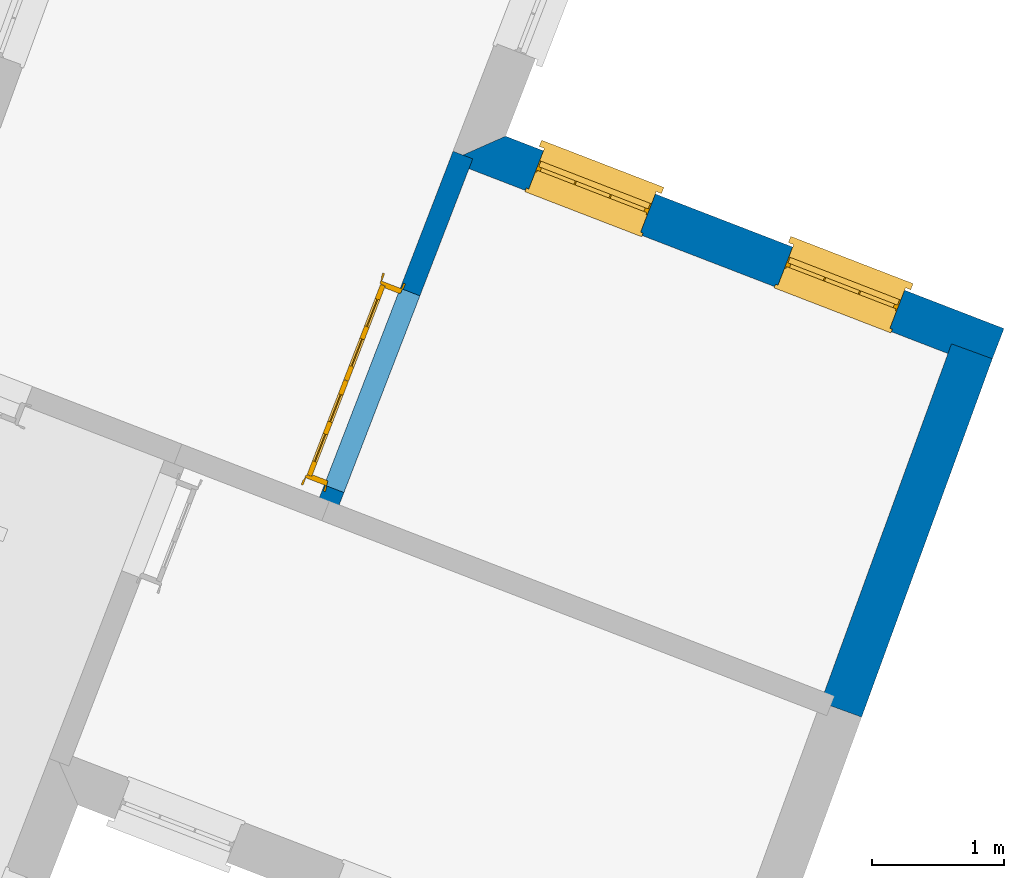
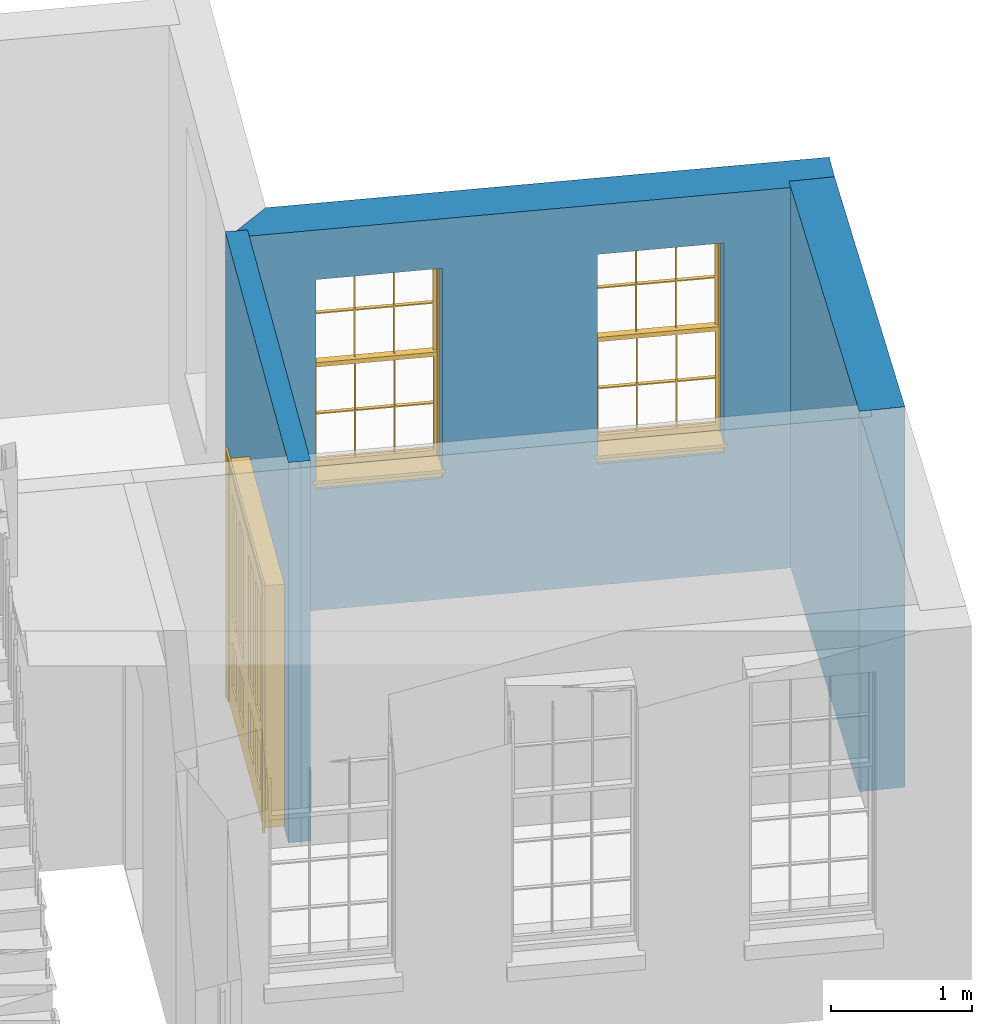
# One storey, part 3 of 4: 3 walls, 2 windows, 1 door, 3 openings.
"""IFC4 building model written with IfcOpenShell, lengths in metres."""

from ifc_helpers import new_model, si_unit, frame, origin, origin_with_axes, place, context, subcontext, project, spatial, polyline, outline, extrude, faceted_brep, source, transform, mapped, material, layer, layer_set, layer_usage, type_object, type_shapes, element, fill, save


model = new_model("IFC4")

# Units and contexts
model_context = context("Model", 3, world=origin_with_axes())
body_context = subcontext(model_context, "Body", "Model", "MODEL_VIEW")
ifc_project = project(units=[si_unit("PLANEANGLEUNIT", "RADIAN"), si_unit("MASSUNIT", "GRAM", prefix="KILO"), si_unit("FORCEUNIT", "NEWTON", prefix="KILO"), si_unit("LENGTHUNIT", "METRE"), si_unit("AREAUNIT", "SQUARE_METRE"), si_unit("VOLUMEUNIT", "CUBIC_METRE")], contexts=[model_context, model_context])

# Sites, building, storey
site_1_placement = place(None, origin_with_axes())
site_1 = spatial("IfcSite", under=ifc_project, at=site_1_placement, Name="Tamar")
site_2_placement = place(site_1_placement, origin_with_axes())
site_2 = spatial("IfcSite", under=site_1, at=site_2_placement, Name="Site plot-11", CompositionType="ELEMENT")
building_placement = place(None, origin_with_axes())
building = spatial("IfcBuilding", under=site_2, at=building_placement, Name="Building plot-11", CompositionType="ELEMENT")
storey_placement = place(None, frame((0.0, 0.0, 30.1), z_axis=(0.0, 0.0, 1.0), x_axis=(1.0, 0.0, 0.0)))
storey = spatial("IfcBuildingStorey", under=building, at=storey_placement, Name="plot-11 1", CompositionType="ELEMENT", Elevation=30.1)

# Wall, openings, windows
ifc_material_1 = material(Name="Masonry")
ifc_layer_1 = layer(ifc_material_1, 0.33, ventilated=False)
ifc_layer_set_1 = layer_set([ifc_layer_1], Name="exterior_0.08_0.25")
ifc_layer_usage_1 = layer_usage(ifc_layer_set_1, "AXIS2", "POSITIVE", -0.25)
wall_type_1 = type_object("IfcWallType", Name="exterior_0.08_0.25", PredefinedType="SOLIDWALL", material=ifc_layer_set_1)
wall_1_placement = place(storey_placement, frame((248.278077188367, 315.049619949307, 0.0), z_axis=(0.0, 0.0, 1.0), x_axis=(-0.932925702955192, 0.360068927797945, 0.0)))
wall_1 = element("IfcWall", 1, at=wall_1_placement, inside=storey, type_object=wall_type_1, material=ifc_layer_usage_1, Name="exterior", context=body_context, shape_type="SweptSolid", body=[
    extrude(outline(polyline([(-0.249999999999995, 0.0799999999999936), (-0.250000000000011, -0.249999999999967), (3.80341760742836, -0.250000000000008), (4.13341760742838, 0.0799999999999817), (-0.249999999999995, 0.0799999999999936)])), origin_with_axes(), (0.0, 0.0, 1.0), 3.3),
])
opening_1_placement = place(wall_1_placement, frame((0.558354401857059, 0.0, 1.05)))
opening_1 = element("IfcOpeningElement", 2, at=opening_1_placement, cuts=wall_1, Name="My Opening", ObjectType="Opening", context=body_context, shape_type="SweptSolid", body=[
    extrude(outline(polyline([(0.0, -0.269999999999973), (0.910000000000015, -0.269999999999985), (0.910000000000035, 1.10000000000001), (1.95399252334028e-14, 1.10000000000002), (0.0, -0.269999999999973)])), origin_with_axes(), (0.0, 0.0, 1.0), 1.82),
])
opening_2_placement = place(wall_1_placement, frame((2.58506320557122, 0.0, 1.05)))
opening_2 = element("IfcOpeningElement", 3, at=opening_2_placement, cuts=wall_1, Name="My Opening", ObjectType="Opening", context=body_context, shape_type="SweptSolid", body=[
    extrude(outline(polyline([(0.0, -0.269999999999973), (0.910000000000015, -0.269999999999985), (0.910000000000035, 1.10000000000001), (1.99840144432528e-14, 1.10000000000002), (0.0, -0.269999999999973)])), origin_with_axes(), (0.0, 0.0, 1.0), 1.82),
])
window_type = type_object("IfcWindowType", Name="sash_big", PartitioningType="DOUBLE_PANEL_HORIZONTAL", PredefinedType="NOTDEFINED")
shared_shape_1 = source(origin(), body_context, "Body", "Brep", [
    faceted_brep([(0.033125, 0.145, 0.975209), (0.01, 0.145, 0.975209), (0.033125, 0.145, 1.376042), (0.876875, 0.145, 0.975209), (0.876875, 0.145, 1.376042), (0.9, 0.145, 0.975209), (0.876875, 0.145, 1.386042), (0.876875, 0.145, 1.786875), (0.9, 0.145, 1.81), (0.033125, 0.145, 1.786875), (0.033125, 0.145, 1.386042), (0.01, 0.145, 1.81), (0.876875, 0.115, 1.376042), (0.876875, 0.115, 0.975209), (0.9, 0.115, 0.937083), (0.033125, 0.115, 1.786875), (0.01, 0.115, 1.81), (0.033125, 0.115, 1.386042), (0.01, 0.115, 0.937083), (0.033125, 0.115, 0.975209), (0.033125, 0.115, 1.376042), (0.876875, 0.115, 1.786875), (0.876875, 0.115, 1.386042), (0.9, 0.115, 1.81), (0.033125, 0.145, 0.937083), (0.01, 0.145, 0.937083), (0.033125, 0.145, 0.53625), (0.876875, 0.145, 0.937083), (0.876875, 0.145, 0.53625), (0.9, 0.145, 0.937083), (0.876875, 0.145, 0.52625), (0.876875, 0.145, 0.125417), (0.9, 0.145, 0.077167), (0.033125, 0.145, 0.125417), (0.033125, 0.145, 0.52625), (0.01, 0.145, 0.077167), (-0.0425, 0.0, 0.01), (-0.0425, -0.05, 0.001667), (0.0, 0.0, 0.01), (0.9525, 0.0, 0.01), (0.91, 0.0, 0.01), (0.9525, -0.05, 0.001667), (-0.02, 0.33, 0.077167), (0.0, 0.33, 0.077167), (-0.02, 0.36, 0.077167), (0.0, 0.19, 0.077167), (0.01, 0.19, 0.077167), (0.91, 0.19, 0.077167), (0.91, 0.33, 0.077167), (0.9, 0.19, 0.077167), (0.93, 0.33, 0.077167), (0.93, 0.36, 0.077167), (0.01, 0.175, 0.975209), (0.9, 0.175, 0.975209), (0.876875, 0.175, 0.125417), (0.876875, 0.175, 0.52625), (0.9, 0.175, 0.077167), (0.876875, 0.175, 0.53625), (0.876875, 0.175, 0.937083), (0.033125, 0.175, 0.125417), (0.01, 0.175, 0.077167), (0.033125, 0.175, 0.52625), (0.033125, 0.175, 0.937083), (0.033125, 0.175, 0.53625), (-0.02, 0.33, 0.052167), (-0.02, 0.36, 0.052167), (0.93, 0.36, 0.052167), (0.93, 0.33, 0.052167), (0.91, 0.33, 0.052167), (0.0, 0.33, 0.052167), (0.91, 0.1, 0.026667), (0.0, 0.1, 0.026667), (-0.0425, -0.05, -0.123333), (0.9525, -0.05, -0.123333), (-0.0425, 0.0, -0.123333), (0.9525, 0.0, -0.123333), (0.01, 0.19, 1.81), (0.9, 0.19, 1.81), (0.0, 0.19, 1.82), (0.91, 0.19, 1.82), (0.01, 0.1, 0.077167), (0.9, 0.1, 0.077167), (0.592292, 0.145, 0.125417), (0.592292, 0.175, 0.125417), (0.317708, 0.175, 0.125417), (0.317708, 0.145, 0.125417), (0.592292, 0.145, 0.53625), (0.317708, 0.145, 0.53625), (0.317708, 0.145, 0.52625), (0.592292, 0.145, 0.52625), (0.592292, 0.175, 0.53625), (0.317708, 0.175, 0.53625), (0.592292, 0.115, 1.386042), (0.592292, 0.145, 1.386042), (0.317708, 0.145, 1.386042), (0.317708, 0.115, 1.386042), (0.317708, 0.115, 1.376042), (0.592292, 0.115, 1.376042), (0.317708, 0.145, 1.376042), (0.592292, 0.145, 1.376042), (0.602292, 0.115, 1.376042), (0.592292, 0.115, 0.975209), (0.602292, 0.115, 0.975209), (0.602292, 0.145, 0.975209), (0.592292, 0.145, 0.975209), (0.602292, 0.145, 1.376042), (0.602292, 0.175, 0.53625), (0.602292, 0.145, 0.53625), (0.317708, 0.175, 0.52625), (0.307708, 0.175, 0.125417), (0.307708, 0.175, 0.52625), (0.602292, 0.175, 0.52625), (0.602292, 0.175, 0.125417), (0.592292, 0.175, 0.52625), (0.307708, 0.175, 0.53625), (0.317708, 0.175, 0.937083), (0.307708, 0.175, 0.937083), (0.602292, 0.175, 0.937083), (0.592292, 0.175, 0.937083), (0.307708, 0.145, 0.52625), (0.307708, 0.145, 0.125417), (0.307708, 0.145, 0.53625), (0.307708, 0.145, 0.937083), (0.592292, 0.145, 0.937083), (0.317708, 0.145, 0.937083), (0.602292, 0.145, 0.937083), (0.602292, 0.145, 0.52625), (0.602292, 0.145, 0.125417), (0.307708, 0.115, 1.386042), (0.307708, 0.115, 1.376042), (0.307708, 0.115, 0.975209), (0.317708, 0.115, 0.975209), (0.317708, 0.115, 1.786875), (0.307708, 0.115, 1.786875), (0.602292, 0.115, 1.786875), (0.592292, 0.115, 1.786875), (0.602292, 0.115, 1.386042), (0.602292, 0.145, 1.386042), (0.307708, 0.145, 1.386042), (0.307708, 0.145, 1.786875), (0.317708, 0.145, 1.786875), (0.592292, 0.145, 1.786875), (0.602292, 0.145, 1.786875), (0.307708, 0.145, 1.376042), (0.317708, 0.145, 0.975209), (0.307708, 0.145, 0.975209), (0.91, 0.1, 1.82), (0.9, 0.1, 1.81), (0.01, 0.1, 1.81), (0.0, 0.1, 1.82), (0.91, 0.0, 0.0), (0.0, 0.0, 0.0), (0.91, 0.33, 0.0), (0.0, 0.33, 0.0)], [[[0, 1, 2]], [[3, 4, 5]], [[6, 7, 8]], [[9, 10, 11]], [[12, 13, 14]], [[15, 16, 17]], [[18, 19, 20]], [[21, 22, 23]], [[24, 25, 26]], [[27, 28, 29]], [[30, 31, 32]], [[33, 34, 35]], [[14, 27, 29]], [[25, 24, 18]], [[36, 37, 38]], [[39, 40, 41]], [[42, 43, 44]], [[45, 46, 43]], [[47, 48, 49]], [[50, 51, 48]], [[1, 0, 52]], [[5, 53, 3]], [[54, 55, 56]], [[57, 58, 53]], [[59, 60, 61]], [[62, 63, 52]], [[48, 43, 46, 49]], [[51, 44, 43, 48]], [[64, 42, 44, 65]], [[65, 44, 51, 66]], [[66, 51, 50, 67]], [[65, 66, 68, 69]], [[60, 56, 49, 46]], [[70, 71, 38, 40]], [[37, 41, 40, 38]], [[37, 72, 73, 41]], [[74, 75, 73, 72]], [[8, 11, 76, 77]], [[76, 78, 79, 77]], [[32, 35, 80, 81]], [[81, 80, 71, 70]], [[82, 83, 84, 85]], [[86, 87, 88, 89]], [[86, 90, 91, 87]], [[92, 93, 94, 95]], [[92, 95, 96, 97]], [[96, 98, 99, 97]], [[100, 97, 101, 102]], [[103, 104, 99, 105]], [[97, 99, 104, 101]], [[102, 103, 105, 100]], [[28, 57, 106, 107]], [[108, 84, 109, 110]], [[111, 112, 83, 113]], [[114, 110, 61, 63]], [[90, 113, 108, 91]], [[115, 91, 114, 116]], [[117, 106, 90, 118]], [[111, 106, 57, 55]], [[119, 110, 109, 120]], [[34, 61, 110, 119]], [[89, 113, 83, 82]], [[88, 108, 113, 89]], [[85, 84, 108, 88]], [[121, 114, 63, 26]], [[122, 116, 114, 121]], [[123, 118, 90, 86]], [[87, 91, 115, 124]], [[107, 106, 117, 125]], [[126, 111, 55, 30]], [[127, 112, 111, 126]], [[126, 30, 28, 107]], [[88, 119, 120, 85]], [[126, 89, 82, 127]], [[125, 123, 86, 107]], [[121, 26, 34, 119]], [[124, 122, 121, 87]], [[128, 17, 20, 129]], [[96, 129, 130, 131]], [[132, 133, 128, 95]], [[134, 135, 92, 136]], [[100, 12, 22, 136]], [[137, 6, 4, 105]], [[94, 138, 139, 140]], [[137, 93, 141, 142]], [[99, 98, 94, 93]], [[143, 2, 10, 138]], [[144, 145, 143, 98]], [[129, 143, 145, 130]], [[20, 2, 143, 129]], [[131, 144, 98, 96]], [[128, 138, 10, 17]], [[133, 139, 138, 128]], [[135, 141, 93, 92]], [[95, 94, 140, 132]], [[22, 6, 137, 136]], [[136, 137, 142, 134]], [[100, 105, 4, 12]], [[107, 86, 89, 126]], [[106, 111, 113, 90]], [[91, 108, 110, 114]], [[87, 121, 119, 88]], [[97, 100, 136, 92]], [[129, 96, 95, 128]], [[98, 143, 138, 94]], [[105, 99, 93, 137]], [[131, 101, 104, 144]], [[124, 115, 118, 123]], [[132, 140, 141, 135]], [[120, 109, 59, 33]], [[15, 9, 139, 133]], [[134, 142, 7, 21]], [[31, 54, 112, 127]], [[36, 74, 72, 37]], [[39, 41, 73, 75]], [[18, 14, 101, 131]], [[23, 16, 132, 135]], [[83, 56, 60, 84]], [[52, 53, 118, 115]], [[53, 52, 144, 104]], [[11, 8, 141, 140]], [[14, 18, 124, 123]], [[2, 1, 11, 10]], [[8, 5, 4, 6]], [[57, 53, 56, 55]], [[60, 52, 63, 61]], [[26, 25, 35, 34]], [[32, 29, 28, 30]], [[14, 23, 22, 12]], [[18, 20, 17, 16]], [[19, 0, 2, 20]], [[17, 10, 9, 15]], [[12, 4, 3, 13]], [[21, 7, 6, 22]], [[27, 58, 57, 28]], [[30, 55, 54, 31]], [[33, 59, 61, 34]], [[26, 63, 62, 24]], [[5, 8, 77, 53]], [[76, 11, 1, 52]], [[46, 45, 78, 76]], [[49, 77, 79, 47]], [[70, 146, 147, 81]], [[71, 80, 148, 149]], [[19, 130, 145, 0]], [[102, 13, 3, 103]], [[116, 122, 24, 62]], [[29, 32, 81, 14]], [[80, 35, 25, 18]], [[60, 46, 76, 52]], [[77, 49, 56, 53]], [[23, 14, 81, 147]], [[16, 148, 80, 18]], [[35, 85, 120]], [[120, 33, 35]], [[127, 82, 32]], [[32, 31, 127]], [[32, 82, 85, 35]], [[102, 101, 14]], [[14, 13, 102]], [[18, 131, 130]], [[130, 19, 18]], [[134, 21, 23]], [[23, 135, 134]], [[16, 15, 133]], [[133, 132, 16]], [[11, 140, 139]], [[139, 9, 11]], [[142, 141, 8]], [[8, 7, 142]], [[23, 147, 148, 16]], [[146, 149, 148, 147]], [[52, 115, 116]], [[116, 62, 52]], [[118, 53, 117]], [[58, 117, 53]], [[27, 125, 117, 58]], [[56, 83, 112]], [[112, 54, 56]], [[109, 84, 60]], [[60, 59, 109]], [[125, 27, 14]], [[14, 123, 125]], [[122, 124, 18]], [[18, 24, 122]], [[145, 144, 52]], [[52, 0, 145]], [[103, 3, 53]], [[53, 104, 103]], [[79, 78, 149, 146]], [[78, 45, 71, 149]], [[146, 70, 47, 79]], [[150, 75, 74, 151]], [[68, 66, 67]], [[48, 68, 67, 50]], [[69, 64, 65]], [[42, 64, 69, 43]], [[69, 68, 152, 153]], [[70, 68, 48, 47]], [[150, 152, 68, 70]], [[43, 69, 71, 45]], [[69, 153, 151, 71]], [[152, 150, 151, 153]], [[38, 151, 74, 36]], [[71, 151, 38]], [[39, 75, 150, 40]], [[40, 150, 70]]]),
])
type_shapes(window_type, [shared_shape_1])
window_1_placement = place(storey_placement, frame((247.854392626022, 315.502555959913, 1.05), z_axis=(0.0, 0.0, 1.0), x_axis=(-0.848962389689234, 0.327662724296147, 0.0)))
window_1 = element("IfcWindow", 4, at=window_1_placement, inside=storey, type_object=window_type, Name="kitchen outside window", OverallHeight=1.82, OverallWidth=0.91, context=body_context, shape_type="MappedRepresentation", body=[
    mapped(shared_shape_1, transform((0.0, 0.0, 0.0), scale=1.0)),
])
fill(opening_1, window_1)
window_2_placement = place(storey_placement, frame((245.963623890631, 316.232310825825, 1.05), z_axis=(0.0, 0.0, 1.0), x_axis=(-0.848962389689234, 0.327662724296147, 0.0)))
window_2 = element("IfcWindow", 5, at=window_2_placement, inside=storey, type_object=window_type, Name="kitchen outside window", OverallHeight=1.82, OverallWidth=0.91, context=body_context, shape_type="MappedRepresentation", body=[
    mapped(shared_shape_1, transform((0.0, 0.0, 0.0), scale=1.0)),
])
fill(opening_2, window_2)

# Wall
ifc_material_2 = material(Name="Masonry")
ifc_layer_2 = layer(ifc_material_2, 0.33, ventilated=False)
ifc_layer_set_2 = layer_set([ifc_layer_2], Name="party_0.08_0.25")
ifc_layer_usage_2 = layer_usage(ifc_layer_set_2, "AXIS2", "POSITIVE", -0.25)
wall_type_2 = type_object("IfcWallType", Name="party_0.08_0.25", PredefinedType="SOLIDWALL", material=ifc_layer_set_2)
wall_2_placement = place(storey_placement, frame((247.286137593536, 312.330722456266, 0.0), z_axis=(0.0, 0.0, 1.0), x_axis=(0.342734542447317, 0.939432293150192, 0.0)))
element("IfcWall", 6, at=wall_2_placement, inside=storey, type_object=wall_type_2, material=ifc_layer_usage_2, Name="party", context=body_context, shape_type="SweptSolid", body=[
    extrude(outline(polyline([(2.66680147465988e-14, 0.0800000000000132), (-4.26727672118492e-14, -0.250000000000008), (2.89419206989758, -0.249999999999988), (2.89419206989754, 0.0799999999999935), (2.66680147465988e-14, 0.0800000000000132)])), origin_with_axes(), (0.0, 0.0, 1.0), 3.3),
])

# Wall, opening, door
ifc_material_3 = material(Name="Masonry")
ifc_layer_3 = layer(ifc_material_3, 0.16, ventilated=False)
ifc_layer_set_3 = layer_set([ifc_layer_3], Name="interior_0.08_0.08")
ifc_layer_usage_3 = layer_usage(ifc_layer_set_3, "AXIS2", "POSITIVE", -0.08)
wall_type_3 = type_object("IfcWallType", Name="interior_0.08_0.08", PredefinedType="SOLIDWALL", material=ifc_layer_set_3)
wall_3_placement = place(storey_placement, frame((243.454609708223, 313.809526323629, 0.0), z_axis=(0.0, 0.0, 1.0), x_axis=(0.360068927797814, 0.932925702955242, 0.0)))
wall_3 = element("IfcWall", 7, at=wall_3_placement, inside=storey, type_object=wall_type_3, material=ifc_layer_usage_3, Name="interior", context=body_context, shape_type="SweptSolid", body=[
    extrude(outline(polyline([(2.10014364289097e-14, 0.0800000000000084), (-2.09916392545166e-14, -0.0800000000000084), (2.89369598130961, -0.0800000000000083), (2.89369598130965, 0.0800000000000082), (2.10014364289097e-14, 0.0800000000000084)])), origin_with_axes(), (0.0, 0.0, 1.0), 3.3),
])
opening_3_placement = place(wall_3_placement, frame((0.180000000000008, 0.0, 0.0199999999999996)))
opening_3 = element("IfcOpeningElement", 8, at=opening_3_placement, cuts=wall_3, Name="My Opening", ObjectType="Opening", context=body_context, shape_type="SweptSolid", body=[
    extrude(outline(polyline([(0.0, -0.0999999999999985), (1.6, -0.099999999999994), (1.60000000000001, 1.09999999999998), (7.13318293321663e-15, 1.09999999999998), (0.0, -0.0999999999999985)])), origin_with_axes(), (0.0, 0.0, 1.0), 2.1),
])
door_type = type_object("IfcDoorType", Name="door_inside_double", OperationType="SINGLE_SWING_LEFT", PredefinedType="NOTDEFINED")
shared_shape_2 = source(origin(), body_context, "Body", "Brep", [
    faceted_brep([(0.14, 0.307, 1.895), (0.14, 0.307, 0.82), (0.363, 0.307, 0.82), (0.363, 0.307, 1.895), (0.14, 0.292, 1.895), (0.14, 0.292, 0.82), (0.363, 0.292, 0.82), (0.363, 0.292, 1.895), (0.027, 0.292, 1.895), (0.027, 0.292, 0.82), (0.363, 0.292, 0.62), (0.14, 0.292, 0.62), (0.463, 0.292, 0.82), (0.463, 0.292, 1.895), (0.363, 0.292, 2.073), (0.14, 0.292, 2.073), (0.027, 0.292, 2.073), (0.027, 0.33, 1.895), (0.027, 0.33, 0.82), (0.027, 0.292, 0.62), (0.463, 0.292, 0.62), (0.14, 0.307, 0.62), (0.363, 0.307, 0.62), (0.463, 0.307, 0.82), (0.463, 0.307, 1.895), (0.463, 0.292, 2.073), (0.14, 0.33, 2.073), (0.363, 0.33, 2.073), (0.027, 0.33, 2.073), (0.14, 0.33, 1.895), (0.14, 0.33, 0.82), (0.027, 0.33, 0.62), (0.027, 0.292, 0.225), (0.14, 0.292, 0.225), (0.363, 0.292, 0.225), (0.463, 0.292, 0.225), (0.686, 0.292, 0.62), (0.686, 0.292, 0.82), (0.14, 0.307, 0.225), (0.363, 0.307, 0.225), (0.686, 0.307, 0.82), (0.686, 0.307, 1.895), (0.686, 0.292, 1.895), (0.686, 0.292, 2.073), (0.463, 0.33, 2.073), (0.363, 0.33, 1.895), (0.14, 0.315, 1.895), (0.14, 0.315, 0.82), (0.14, 0.33, 0.62), (0.027, 0.33, 0.225), (0.027, 0.292, 0.0), (0.14, 0.292, 0.0), (0.363, 0.292, 0.0), (0.463, 0.292, 0.0), (0.463, 0.307, 0.225), (0.463, 0.307, 0.62), (0.686, 0.307, 0.62), (0.799, 0.292, 0.62), (0.799, 0.292, 0.82), (0.799, 0.292, 1.895), (0.799, 0.292, 2.073), (0.686, 0.33, 2.073), (0.463, 0.33, 1.895), (0.363, 0.315, 1.895), (0.363, 0.315, 0.82), (0.363, 0.33, 0.82), (0.363, 0.33, 0.62), (0.14, 0.33, 0.225), (0.027, 0.33, 0.0), (0.14, 0.33, 0.0), (0.363, 0.33, 0.0), (0.463, 0.33, 0.0), (0.686, 0.292, 0.0), (0.686, 0.292, 0.225), (0.686, 0.307, 0.225), (0.799, 0.292, 0.225), (0.799, 0.33, 0.62), (0.799, 0.33, 0.82), (0.799, 0.33, 1.895), (0.799, 0.33, 2.073), (0.686, 0.33, 1.895), (0.463, 0.33, 0.82), (0.463, 0.33, 0.62), (0.363, 0.315, 0.62), (0.14, 0.315, 0.62), (0.14, 0.315, 0.225), (0.363, 0.33, 0.225), (0.463, 0.33, 0.225), (0.686, 0.33, 0.0), (0.799, 0.292, 0.0), (0.799, 0.33, 0.225), (0.686, 0.33, 0.62), (0.686, 0.33, 0.82), (0.686, 0.315, 1.895), (0.463, 0.315, 1.895), (0.463, 0.315, 0.82), (0.363, 0.315, 0.225), (0.686, 0.33, 0.225), (0.799, 0.33, 0.0), (0.686, 0.315, 0.82), (0.463, 0.315, 0.62), (0.463, 0.315, 0.225), (0.686, 0.315, 0.62), (0.686, 0.315, 0.225), (1.46, 0.33, 1.895), (1.237, 0.33, 1.895), (1.237, 0.33, 2.073), (1.46, 0.33, 2.073), (1.46, 0.315, 1.895), (1.237, 0.315, 1.895), (1.137, 0.33, 1.895), (1.137, 0.33, 2.073), (1.237, 0.292, 2.073), (1.46, 0.292, 2.073), (1.573, 0.33, 1.895), (1.573, 0.33, 2.073), (1.46, 0.33, 0.82), (1.46, 0.315, 0.82), (1.237, 0.315, 0.82), (1.237, 0.33, 0.82), (1.137, 0.33, 0.82), (0.914, 0.33, 2.073), (0.914, 0.33, 1.895), (1.137, 0.292, 2.073), (1.237, 0.292, 1.895), (1.46, 0.292, 1.895), (1.573, 0.292, 2.073), (1.573, 0.33, 0.82), (1.573, 0.292, 1.895), (1.237, 0.33, 0.62), (1.137, 0.33, 0.62), (1.137, 0.315, 0.82), (1.137, 0.315, 1.895), (0.914, 0.292, 2.073), (0.914, 0.315, 1.895), (0.801, 0.33, 2.073), (0.801, 0.33, 1.895), (1.137, 0.292, 1.895), (1.237, 0.307, 1.895), (1.46, 0.307, 1.895), (1.573, 0.292, 0.82), (1.573, 0.33, 0.62), (1.46, 0.33, 0.62), (1.237, 0.33, 0.225), (1.137, 0.33, 0.225), (0.914, 0.33, 0.82), (0.914, 0.33, 0.62), (0.914, 0.315, 0.82), (0.801, 0.292, 2.073), (0.914, 0.292, 1.895), (0.801, 0.33, 0.82), (0.801, 0.292, 1.895), (1.137, 0.292, 0.82), (1.237, 0.292, 0.82), (1.237, 0.307, 0.82), (1.46, 0.307, 0.82), (1.46, 0.292, 0.82), (1.573, 0.292, 0.62), (1.573, 0.33, 0.225), (1.46, 0.33, 0.225), (1.46, 0.315, 0.62), (1.237, 0.315, 0.62), (1.237, 0.33, 0.0), (1.137, 0.33, 0.0), (1.137, 0.315, 0.225), (1.137, 0.315, 0.62), (1.237, 0.315, 0.225), (0.914, 0.315, 0.62), (0.801, 0.33, 0.62), (0.914, 0.307, 1.895), (1.137, 0.307, 1.895), (0.801, 0.292, 0.82), (1.137, 0.292, 0.62), (1.237, 0.292, 0.62), (1.137, 0.307, 0.82), (1.46, 0.292, 0.62), (1.573, 0.292, 0.225), (1.573, 0.33, 0.0), (1.46, 0.33, 0.0), (1.46, 0.315, 0.225), (1.237, 0.292, 0.0), (1.137, 0.292, 0.0), (0.914, 0.33, 0.225), (0.914, 0.33, 0.0), (0.914, 0.315, 0.225), (0.801, 0.33, 0.225), (0.801, 0.292, 0.62), (0.914, 0.292, 0.82), (0.914, 0.307, 0.82), (1.137, 0.292, 0.225), (1.237, 0.292, 0.225), (0.914, 0.292, 0.62), (1.46, 0.292, 0.225), (1.573, 0.292, 0.0), (1.46, 0.292, 0.0), (0.914, 0.292, 0.0), (0.801, 0.33, 0.0), (0.801, 0.292, 0.225), (1.237, 0.307, 0.225), (1.237, 0.307, 0.62), (1.137, 0.307, 0.62), (1.137, 0.307, 0.225), (1.46, 0.307, 0.62), (0.914, 0.307, 0.62), (1.46, 0.307, 0.225), (0.914, 0.292, 0.225), (0.801, 0.292, 0.0), (0.914, 0.307, 0.225), (0.02, 0.335, 0.0), (0.005, 0.34, 0.0), (0.005, 0.34, 2.095), (0.02, 0.335, 2.08), (0.02, 0.33, 0.0), (0.0, 0.335, 0.0), (0.0, 0.335, 2.1), (1.595, 0.34, 2.095), (1.58, 0.335, 2.08), (0.02, 0.33, 2.08), (0.0, 0.33, 0.0), (-0.032, 0.345, 0.0), (-0.032, 0.345, 2.132), (1.6, 0.335, 2.1), (1.595, 0.34, 0.0), (1.58, 0.335, 0.0), (1.58, 0.33, 2.08), (0.025, 0.33, 0.0), (0.025, 0.33, 2.075), (-0.04, 0.34, 0.0), (0.025, 0.29, 0.0), (0.0, 0.17, 0.0), (-0.04, 0.34, 2.14), (1.632, 0.345, 2.132), (1.6, 0.335, 0.0), (1.58, 0.33, 0.0), (1.575, 0.33, 2.075), (0.025, 0.29, 2.075), (-0.06, 0.33, 0.0), (0.035, 0.17, 0.0), (0.0, 0.17, 2.1), (0.0, 0.33, 2.1), (-0.04, 0.345, 0.0), (-0.04, 0.345, 2.14), (1.64, 0.34, 2.14), (1.632, 0.345, 0.0), (1.6, 0.33, 0.0), (1.575, 0.33, 0.0), (1.575, 0.29, 2.075), (0.04, 0.29, 0.0), (0.04, 0.29, 2.06), (-0.06, 0.345, 0.0), (-0.06, 0.33, 2.16), (0.015, 0.165, 0.0), (0.04, 0.17, 0.0), (-0.045, 0.17, 2.145), (-0.045, 0.17, 0.0), (1.6, 0.17, 2.1), (1.6, 0.33, 2.1), (-0.06, 0.345, 2.16), (1.64, 0.345, 2.14), (1.64, 0.34, 0.0), (1.6, 0.17, 0.0), (1.575, 0.29, 0.0), (1.56, 0.29, 2.06), (0.04, 0.17, 2.06), (1.66, 0.33, 2.16), (-0.017, 0.155, 0.0), (-0.025, 0.16, 0.0), (0.02, 0.16, 0.0), (0.035, 0.165, 0.0), (0.035, 0.17, 2.065), (1.645, 0.17, 2.145), (-0.045, 0.155, 2.145), (-0.045, 0.155, 0.0), (1.66, 0.345, 2.16), (1.64, 0.345, 0.0), (1.66, 0.33, 0.0), (1.565, 0.17, 0.0), (1.56, 0.29, 0.0), (1.56, 0.17, 2.06), (-0.017, 0.155, 2.117), (-0.025, 0.16, 2.125), (0.015, 0.165, 2.085), (0.02, 0.16, 2.08), (0.035, 0.165, 2.065), (1.565, 0.17, 2.065), (1.645, 0.17, 0.0), (1.645, 0.155, 2.145), (-0.025, 0.155, 0.0), (1.66, 0.345, 0.0), (1.585, 0.165, 0.0), (1.56, 0.17, 0.0), (1.617, 0.155, 2.117), (1.625, 0.16, 2.125), (-0.025, 0.155, 2.125), (1.585, 0.165, 2.085), (1.58, 0.16, 2.08), (1.565, 0.165, 2.065), (1.625, 0.16, 0.0), (1.645, 0.155, 0.0), (1.625, 0.155, 2.125), (1.617, 0.155, 0.0), (1.565, 0.165, 0.0), (1.58, 0.16, 0.0), (1.625, 0.155, 0.0)], [[[0, 1, 2, 3]], [[1, 0, 4, 5]], [[2, 1, 5, 6]], [[6, 7, 3, 2]], [[7, 4, 0, 3]], [[4, 8, 9, 5]], [[10, 6, 5, 11]], [[6, 12, 13, 7]], [[14, 15, 4, 7]], [[15, 16, 8, 4]], [[9, 8, 17, 18]], [[5, 9, 19, 11]], [[10, 20, 12, 6]], [[10, 11, 21, 22]], [[13, 12, 23, 24]], [[7, 13, 25, 14]], [[26, 15, 14, 27]], [[28, 16, 15, 26]], [[8, 16, 28, 17]], [[17, 29, 30, 18]], [[18, 31, 19, 9]], [[11, 19, 32, 33]], [[34, 35, 20, 10]], [[20, 36, 37, 12]], [[11, 33, 38, 21]], [[39, 22, 21, 38]], [[34, 10, 22, 39]], [[12, 37, 40, 23]], [[24, 23, 40, 41]], [[42, 13, 24, 41]], [[13, 42, 43, 25]], [[14, 25, 44, 27]], [[26, 27, 45, 29]], [[28, 26, 29, 17]], [[30, 29, 46, 47]], [[18, 30, 48, 31]], [[31, 49, 32, 19]], [[33, 32, 50, 51]], [[52, 53, 35, 34]], [[20, 35, 54, 55]], [[36, 20, 55, 56]], [[36, 57, 58, 37]], [[33, 34, 39, 38]], [[37, 42, 41, 40]], [[42, 59, 60, 43]], [[44, 25, 43, 61]], [[62, 45, 27, 44]], [[29, 45, 63, 46]], [[46, 63, 64, 47]], [[65, 30, 47, 64]], [[30, 65, 66, 48]], [[31, 48, 67, 49]], [[68, 50, 32, 49]], [[68, 69, 51, 50]], [[34, 33, 51, 52]], [[53, 52, 70, 71]], [[53, 72, 73, 35]], [[35, 73, 74, 54]], [[55, 54, 74, 56]], [[73, 36, 56, 74]], [[73, 75, 57, 36]], [[57, 76, 77, 58]], [[37, 58, 59, 42]], [[78, 79, 60, 59]], [[60, 79, 61, 43]], [[80, 62, 44, 61]], [[81, 65, 45, 62]], [[45, 65, 64, 63]], [[82, 66, 65, 81]], [[48, 66, 83, 84]], [[67, 48, 84, 85]], [[49, 67, 69, 68]], [[52, 51, 69, 70]], [[71, 70, 86, 87]], [[72, 53, 71, 88]], [[72, 89, 75, 73]], [[75, 90, 76, 57]], [[76, 91, 92, 77]], [[78, 59, 58, 77]], [[78, 80, 61, 79]], [[62, 80, 93, 94]], [[81, 62, 94, 95]], [[87, 86, 66, 82]], [[91, 82, 81, 92]], [[66, 86, 96, 83]], [[84, 83, 96, 85]], [[86, 67, 85, 96]], [[67, 86, 70, 69]], [[88, 71, 87, 97]], [[89, 72, 88, 98]], [[89, 98, 90, 75]], [[90, 97, 91, 76]], [[80, 78, 77, 92]], [[80, 92, 99, 93]], [[99, 95, 94, 93]], [[92, 81, 95, 99]], [[87, 82, 100, 101]], [[82, 91, 102, 100]], [[97, 87, 101, 103]], [[98, 88, 97, 90]], [[91, 97, 103, 102]], [[103, 101, 100, 102]], [[104, 105, 106, 107]], [[105, 104, 108, 109]], [[105, 110, 111, 106]], [[106, 112, 113, 107]], [[114, 104, 107, 115]], [[104, 116, 117, 108]], [[117, 118, 109, 108]], [[119, 105, 109, 118]], [[119, 120, 110, 105]], [[121, 111, 110, 122]], [[123, 112, 106, 111]], [[124, 125, 113, 112]], [[126, 115, 107, 113]], [[104, 114, 127, 116]], [[114, 115, 126, 128]], [[116, 119, 118, 117]], [[129, 130, 120, 119]], [[110, 120, 131, 132]], [[121, 133, 123, 111]], [[122, 110, 132, 134]], [[135, 121, 122, 136]], [[137, 124, 112, 123]], [[125, 124, 138, 139]], [[125, 128, 126, 113]], [[114, 128, 140, 127]], [[141, 142, 116, 127]], [[142, 129, 119, 116]], [[143, 144, 130, 129]], [[145, 120, 130, 146]], [[120, 145, 147, 131]], [[134, 132, 131, 147]], [[135, 148, 133, 121]], [[123, 133, 149, 137]], [[145, 122, 134, 147]], [[136, 122, 145, 150]], [[151, 148, 135, 136]], [[152, 153, 124, 137]], [[124, 153, 154, 138]], [[138, 154, 155, 139]], [[156, 125, 139, 155]], [[156, 140, 128, 125]], [[157, 141, 127, 140]], [[158, 159, 142, 141]], [[129, 142, 160, 161]], [[162, 163, 144, 143]], [[130, 144, 164, 165]], [[143, 129, 161, 166]], [[146, 130, 165, 167]], [[150, 145, 146, 168]], [[133, 148, 151, 149]], [[137, 149, 169, 170]], [[171, 151, 136, 150]], [[172, 173, 153, 152]], [[152, 137, 170, 174]], [[153, 156, 155, 154]], [[175, 157, 140, 156]], [[176, 158, 141, 157]], [[177, 178, 159, 158]], [[142, 159, 179, 160]], [[179, 166, 161, 160]], [[180, 181, 163, 162]], [[182, 144, 163, 183]], [[178, 162, 143, 159]], [[144, 182, 184, 164]], [[167, 165, 164, 184]], [[159, 143, 166, 179]], [[182, 146, 167, 184]], [[168, 146, 182, 185]], [[150, 168, 186, 171]], [[149, 151, 171, 187]], [[149, 187, 188, 169]], [[169, 188, 174, 170]], [[189, 190, 173, 172]], [[173, 175, 156, 153]], [[172, 152, 187, 191]], [[187, 152, 174, 188]], [[192, 176, 157, 175]], [[193, 177, 158, 176]], [[193, 194, 178, 177]], [[181, 180, 190, 189]], [[181, 195, 183, 163]], [[194, 180, 162, 178]], [[185, 182, 183, 196]], [[168, 185, 197, 186]], [[187, 171, 186, 191]], [[173, 190, 198, 199]], [[189, 172, 200, 201]], [[175, 173, 199, 202]], [[172, 191, 203, 200]], [[194, 193, 176, 192]], [[192, 175, 202, 204]], [[180, 194, 192, 190]], [[189, 205, 195, 181]], [[196, 183, 195, 206]], [[196, 206, 197, 185]], [[191, 186, 197, 205]], [[190, 192, 204, 198]], [[199, 198, 204, 202]], [[201, 200, 203, 207]], [[205, 189, 201, 207]], [[191, 205, 207, 203]], [[205, 197, 206, 195]], [[208, 209, 210, 211]], [[208, 212, 213, 209]], [[209, 213, 214, 210]], [[211, 210, 215, 216]], [[211, 217, 212, 208]], [[218, 213, 212]], [[213, 219, 220, 214]], [[210, 214, 221, 215]], [[216, 215, 222, 223]], [[217, 211, 216, 224]], [[225, 212, 217, 226]], [[219, 213, 218, 227]], [[218, 212, 228, 229]], [[219, 227, 230, 220]], [[214, 220, 231, 221]], [[215, 221, 232, 222]], [[222, 232, 233, 223]], [[224, 216, 223, 233]], [[226, 217, 224, 234]], [[225, 228, 212]], [[235, 228, 225, 226]], [[236, 227, 218]], [[237, 229, 228]], [[229, 238, 239, 218]], [[227, 240, 241, 230]], [[220, 230, 242, 231]], [[221, 231, 243, 232]], [[244, 233, 232]], [[234, 224, 233, 245]], [[246, 235, 226, 234]], [[247, 228, 235, 248]], [[240, 227, 236, 249]], [[239, 250, 236, 218]], [[251, 229, 237]], [[252, 237, 228, 247]], [[253, 238, 229, 254]], [[238, 255, 256, 239]], [[241, 240, 257]], [[230, 241, 258, 242]], [[231, 242, 259, 243]], [[259, 244, 232, 243]], [[260, 261, 233, 244]], [[245, 233, 261]], [[261, 246, 234, 245]], [[248, 235, 246, 262]], [[248, 263, 252, 247]], [[250, 257, 249, 236]], [[240, 249, 257]], [[256, 264, 250, 239]], [[265, 266, 229, 251]], [[267, 251, 237, 268]], [[263, 269, 237, 252]], [[270, 255, 238, 253]], [[229, 266, 254]], [[271, 253, 254, 272]], [[256, 255, 260, 244]], [[273, 241, 257]], [[273, 258, 241]], [[242, 258, 274, 259]], [[275, 244, 259]], [[260, 276, 261]], [[261, 277, 262, 246]], [[262, 278, 263, 248]], [[264, 273, 257, 250]], [[244, 275, 264, 256]], [[266, 265, 279, 280]], [[265, 251, 281, 279]], [[251, 267, 282, 281]], [[269, 283, 268, 237]], [[267, 268, 283, 282]], [[278, 284, 269, 263]], [[285, 260, 255, 270]], [[286, 270, 253, 271]], [[272, 254, 266, 287]], [[271, 272, 287]], [[273, 274, 258]], [[288, 275, 259, 274]], [[276, 260, 289]], [[277, 261, 276, 290]], [[278, 262, 277, 290]], [[275, 288, 273, 264]], [[280, 279, 291, 292]], [[287, 266, 280, 293]], [[279, 281, 294, 291]], [[281, 282, 295, 294]], [[284, 296, 283, 269]], [[282, 283, 296, 295]], [[290, 276, 284, 278]], [[285, 297, 260]], [[298, 285, 270, 286]], [[299, 286, 271]], [[271, 287, 293]], [[273, 288, 274]], [[300, 289, 260, 297]], [[301, 276, 289, 302]], [[292, 291, 300, 297]], [[293, 280, 292, 299]], [[291, 294, 289, 300]], [[294, 295, 302, 289]], [[296, 284, 276, 301]], [[295, 296, 301, 302]], [[303, 297, 285, 298]], [[299, 298, 286]], [[271, 293, 299]], [[299, 292, 297, 303]], [[299, 303, 298]]]),
])
type_shapes(door_type, [shared_shape_2])
door_placement = place(storey_placement, frame((243.612714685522, 313.941446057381, 0.0199999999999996), z_axis=(0.0, 0.0, 1.0), x_axis=(0.576110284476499, 1.49268112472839, 0.0)))
door = element("IfcDoor", 9, at=door_placement, inside=storey, type_object=door_type, Name="kitchen living inside door", OverallHeight=2.1, OverallWidth=1.6, context=body_context, shape_type="MappedRepresentation", body=[
    mapped(shared_shape_2, transform((0.0, 0.0, 0.0), scale=1.0)),
])
fill(opening_3, door)

save(model, "model.ifc")
